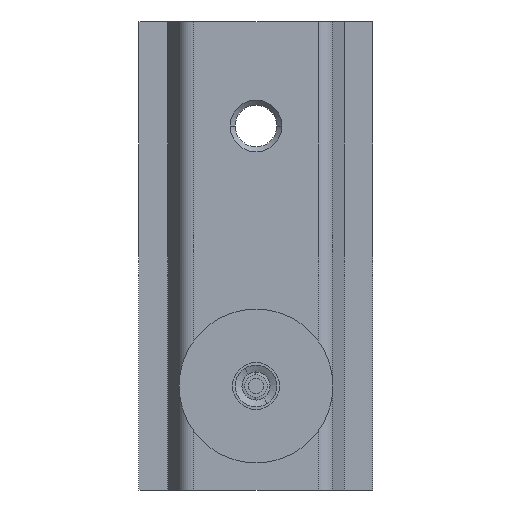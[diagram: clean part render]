
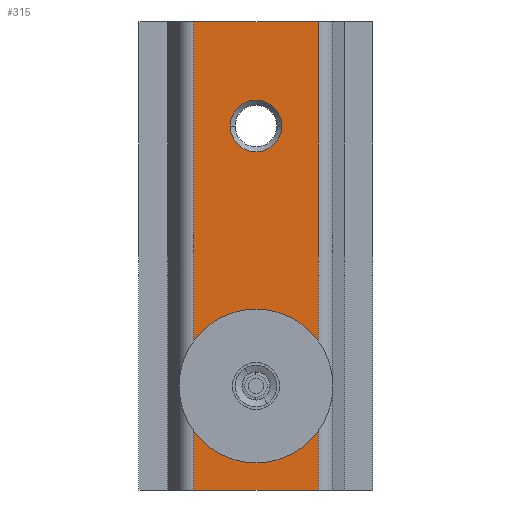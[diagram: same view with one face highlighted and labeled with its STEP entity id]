
A CAD part, front view. The second image highlights one B-rep face of the part: STEP entity #315.
In plain terms, the highlighted planar face has unit normal (0, -1, 0) as drawn and (0, 0, -1) by its records, which use the part's own axes.
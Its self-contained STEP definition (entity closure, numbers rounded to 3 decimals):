
#44 = DIRECTION ( 'NONE',  ( 0., 0., 1. ) ) ;
#53 = EDGE_CURVE ( 'NONE', #1710, #3227, #2585, .T. ) ;
#56 = EDGE_CURVE ( 'NONE', #3359, #1544, #444, .T. ) ;
#123 = DIRECTION ( 'NONE',  ( -1., 0., 0. ) ) ;
#168 = VECTOR ( 'NONE', #2995, 1000. ) ;
#171 = EDGE_LOOP ( 'NONE', ( #1739, #3183 ) ) ;
#217 = VECTOR ( 'NONE', #2694, 1000. ) ;
#240 = ORIENTED_EDGE ( 'NONE', *, *, #56, .T. ) ;
#267 = AXIS2_PLACEMENT_3D ( 'NONE', #2543, #872, #2828 ) ;
#315 = ADVANCED_FACE ( 'NONE', ( #2711, #3368, #1942 ), #2080, .F. ) ;
#428 = EDGE_CURVE ( 'NONE', #1544, #2371, #1681, .T. ) ;
#444 = LINE ( 'NONE', #2546, #2672 ) ;
#589 = CARTESIAN_POINT ( 'NONE',  ( -6., -22.5, -5. ) ) ;
#631 = CIRCLE ( 'NONE', #267, 3.15 ) ;
#714 = CARTESIAN_POINT ( 'NONE',  ( 6., 22.5, -5. ) ) ;
#795 = VERTEX_POINT ( 'NONE', #2627 ) ;
#820 = EDGE_CURVE ( 'NONE', #2716, #2029, #3048, .T. ) ;
#842 = LINE ( 'NONE', #2346, #3291 ) ;
#872 = DIRECTION ( 'NONE',  ( 0., 0., -1. ) ) ;
#879 = ORIENTED_EDGE ( 'NONE', *, *, #1972, .T. ) ;
#913 = ORIENTED_EDGE ( 'NONE', *, *, #53, .T. ) ;
#977 = CARTESIAN_POINT ( 'NONE',  ( 2.5, -12.5, -5. ) ) ;
#991 = LINE ( 'NONE', #3567, #168 ) ;
#1003 = CARTESIAN_POINT ( 'NONE',  ( 0., 12.5, -5. ) ) ;
#1121 = EDGE_LOOP ( 'NONE', ( #913, #2090 ) ) ;
#1216 = ORIENTED_EDGE ( 'NONE', *, *, #3170, .F. ) ;
#1263 = AXIS2_PLACEMENT_3D ( 'NONE', #1003, #2953, #1268 ) ;
#1268 = DIRECTION ( 'NONE',  ( -1., 0., 0. ) ) ;
#1380 = CARTESIAN_POINT ( 'NONE',  ( 0., -12.5, -5. ) ) ;
#1494 = EDGE_CURVE ( 'NONE', #3227, #1710, #3452, .T. ) ;
#1495 = CARTESIAN_POINT ( 'NONE',  ( -6., 22.5, -5. ) ) ;
#1531 = DIRECTION ( 'NONE',  ( 1., 0., 0. ) ) ;
#1544 = VERTEX_POINT ( 'NONE', #589 ) ;
#1577 = CARTESIAN_POINT ( 'NONE',  ( 6., -22.5, -5. ) ) ;
#1656 = DIRECTION ( 'NONE',  ( 1., 0., 0. ) ) ;
#1681 = LINE ( 'NONE', #3538, #217 ) ;
#1697 = CARTESIAN_POINT ( 'NONE',  ( 0., -12.5, -5. ) ) ;
#1710 = VERTEX_POINT ( 'NONE', #2316 ) ;
#1739 = ORIENTED_EDGE ( 'NONE', *, *, #3565, .F. ) ;
#1871 = EDGE_LOOP ( 'NONE', ( #1216, #879, #240, #2478 ) ) ;
#1942 = FACE_OUTER_BOUND ( 'NONE', #1871, .T. ) ;
#1972 = EDGE_CURVE ( 'NONE', #795, #3359, #991, .T. ) ;
#1977 = DIRECTION ( 'NONE',  ( 1., 0., 0. ) ) ;
#2029 = VERTEX_POINT ( 'NONE', #2751 ) ;
#2080 = PLANE ( 'NONE',  #2533 ) ;
#2090 = ORIENTED_EDGE ( 'NONE', *, *, #1494, .T. ) ;
#2316 = CARTESIAN_POINT ( 'NONE',  ( -2.5, -12.5, -5. ) ) ;
#2346 = CARTESIAN_POINT ( 'NONE',  ( 6., 22.5, -5. ) ) ;
#2371 = VERTEX_POINT ( 'NONE', #1495 ) ;
#2458 = CARTESIAN_POINT ( 'NONE',  ( 3.15, 12.5, -5. ) ) ;
#2478 = ORIENTED_EDGE ( 'NONE', *, *, #428, .T. ) ;
#2533 = AXIS2_PLACEMENT_3D ( 'NONE', #714, #3223, #1531 ) ;
#2543 = CARTESIAN_POINT ( 'NONE',  ( 0., 12.5, -5. ) ) ;
#2546 = CARTESIAN_POINT ( 'NONE',  ( 6., -22.5, -5. ) ) ;
#2585 = CIRCLE ( 'NONE', #3553, 2.5 ) ;
#2627 = CARTESIAN_POINT ( 'NONE',  ( 6., 22.5, -5. ) ) ;
#2651 = AXIS2_PLACEMENT_3D ( 'NONE', #1380, #3352, #1656 ) ;
#2672 = VECTOR ( 'NONE', #3397, 1000. ) ;
#2694 = DIRECTION ( 'NONE',  ( 0., 1., 0. ) ) ;
#2711 = FACE_BOUND ( 'NONE', #1121, .T. ) ;
#2716 = VERTEX_POINT ( 'NONE', #2458 ) ;
#2751 = CARTESIAN_POINT ( 'NONE',  ( -3.15, 12.5, -5. ) ) ;
#2828 = DIRECTION ( 'NONE',  ( -1., 0., 0. ) ) ;
#2953 = DIRECTION ( 'NONE',  ( 0., 0., -1. ) ) ;
#2995 = DIRECTION ( 'NONE',  ( 0., -1., 0. ) ) ;
#3048 = CIRCLE ( 'NONE', #1263, 3.15 ) ;
#3170 = EDGE_CURVE ( 'NONE', #795, #2371, #842, .T. ) ;
#3183 = ORIENTED_EDGE ( 'NONE', *, *, #820, .F. ) ;
#3223 = DIRECTION ( 'NONE',  ( 0., 0., 1. ) ) ;
#3227 = VERTEX_POINT ( 'NONE', #977 ) ;
#3291 = VECTOR ( 'NONE', #123, 1000. ) ;
#3352 = DIRECTION ( 'NONE',  ( 0., 0., 1. ) ) ;
#3359 = VERTEX_POINT ( 'NONE', #1577 ) ;
#3368 = FACE_BOUND ( 'NONE', #171, .T. ) ;
#3397 = DIRECTION ( 'NONE',  ( -1., 0., 0. ) ) ;
#3452 = CIRCLE ( 'NONE', #2651, 2.5 ) ;
#3538 = CARTESIAN_POINT ( 'NONE',  ( -6., 22.5, -5. ) ) ;
#3553 = AXIS2_PLACEMENT_3D ( 'NONE', #1697, #44, #1977 ) ;
#3565 = EDGE_CURVE ( 'NONE', #2029, #2716, #631, .T. ) ;
#3567 = CARTESIAN_POINT ( 'NONE',  ( 6., 22.5, -5. ) ) ;
